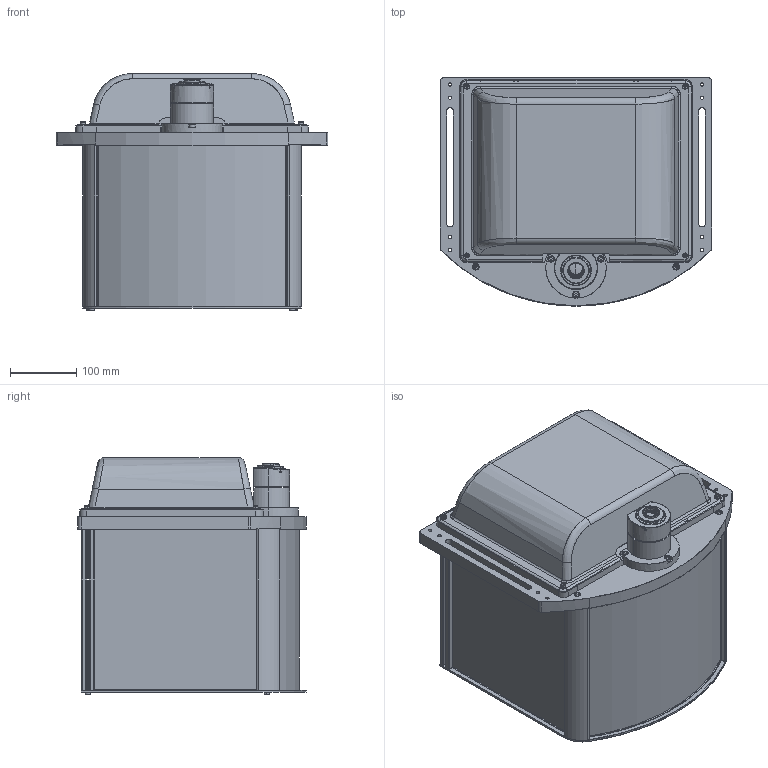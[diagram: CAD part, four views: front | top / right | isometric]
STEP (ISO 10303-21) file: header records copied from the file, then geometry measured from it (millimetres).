
FILE_DESCRIPTION(('LS-TCL-0348'),'2;1');
FILE_NAME('LS-TCL-0348.stp','2026-10-15T21:55:53',('LumaSpec Vision'),('LumaSpec Vision'),'LumaSpec Vision','LumaSpec Vision','');
FILE_SCHEMA(('AUTOMOTIVE_DESIGN { 1 0 10303 214 1 1 1 1 }'));
Length unit declared in the file: millimetre
Products named in the file (458): LumaSpec Vision
Assembly tree (457 placements, depth 2):
  LumaSpec Vision
    LumaSpec Vision
    LumaSpec Vision
    LumaSpec Vision
    LumaSpec Vision
    LumaSpec Vision
    LumaSpec Vision
    LumaSpec Vision
    LumaSpec Vision
    LumaSpec Vision
    LumaSpec Vision
    LumaSpec Vision
    LumaSpec Vision
    LumaSpec Vision
    LumaSpec Vision
    LumaSpec Vision
    LumaSpec Vision
    LumaSpec Vision
    LumaSpec Vision
    LumaSpec Vision
    LumaSpec Vision
    LumaSpec Vision
    LumaSpec Vision
    LumaSpec Vision
    LumaSpec Vision
    LumaSpec Vision
    LumaSpec Vision
    LumaSpec Vision
    LumaSpec Vision
    LumaSpec Vision
    LumaSpec Vision
    LumaSpec Vision
    LumaSpec Vision
    LumaSpec Vision
    LumaSpec Vision
    LumaSpec Vision
    LumaSpec Vision
    LumaSpec Vision
    LumaSpec Vision
    LumaSpec Vision
    LumaSpec Vision
    LumaSpec Vision
    LumaSpec Vision
    LumaSpec Vision
    LumaSpec Vision
    LumaSpec Vision
    LumaSpec Vision
    LumaSpec Vision
    LumaSpec Vision
    LumaSpec Vision
    LumaSpec Vision
    LumaSpec Vision
    LumaSpec Vision
    LumaSpec Vision
    LumaSpec Vision
    LumaSpec Vision
    LumaSpec Vision
    LumaSpec Vision
    LumaSpec Vision
    LumaSpec Vision
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Bounding box: 410.34 x 344.11 x 357.5 mm (x, y, z)
Surface area: 855426.5 mm2 (no closed solid volume)
Topology: 0 solids, 457 shells, 457 faces, 7523 edges, 7520 vertices
Faces by surface type: bspline 243, revolution 214
Entity records: 126788 total; most frequent: CARTESIAN_POINT 50201, B_SPLINE_CURVE_WITH_KNOTS 13001, ORIENTED_EDGE 7520, EDGE_CURVE 7520, VERTEX_POINT 7520, SURFACE_CURVE 7520, PCURVE 7520, DEFINITIONAL_REPRESENTATION 7520
